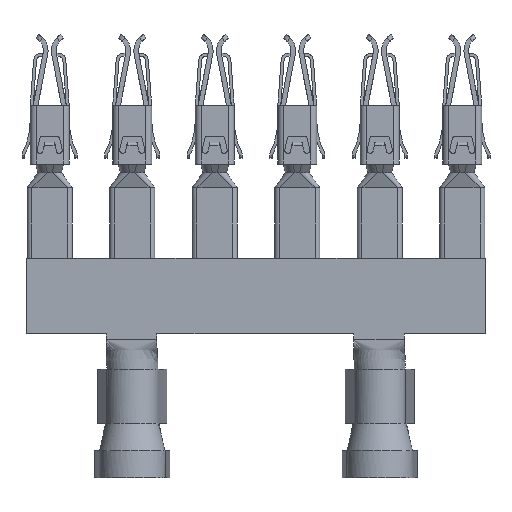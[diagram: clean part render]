
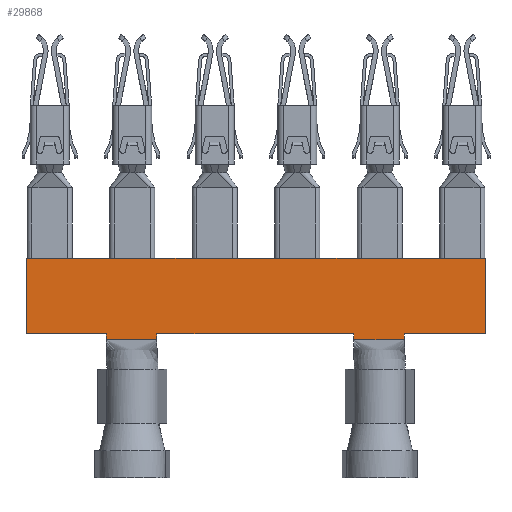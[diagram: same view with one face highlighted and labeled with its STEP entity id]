
A CAD part, front view. The second image highlights one B-rep face of the part: STEP entity #29868.
In plain terms, the highlighted planar face has unit normal (0, -1, 0).
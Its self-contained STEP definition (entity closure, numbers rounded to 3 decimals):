
#59=DIRECTION('',(1.,0.,0.));
#60=VECTOR('',#59,6.789);
#61=CARTESIAN_POINT('',(-37.001,-0.81,-25.4));
#62=LINE('',#61,#60);
#63=DIRECTION('',(1.,0.,0.));
#64=VECTOR('',#63,16.7);
#65=CARTESIAN_POINT('',(-25.912,-0.81,-25.4));
#66=LINE('',#65,#64);
#75=DIRECTION('',(1.,0.,0.));
#76=VECTOR('',#75,6.912);
#77=CARTESIAN_POINT('',(-4.912,-0.81,-25.4));
#78=LINE('',#77,#76);
#171=DIRECTION('',(1.,0.,0.));
#172=VECTOR('',#171,0.088);
#173=CARTESIAN_POINT('',(-37.001,-0.81,-19.));
#174=LINE('',#173,#172);
#183=DIRECTION('',(-1.,0.,0.));
#184=VECTOR('',#183,3.175);
#185=CARTESIAN_POINT('',(-15.913,-0.81,-19.));
#186=LINE('',#185,#184);
#191=DIRECTION('',(-1.,0.,0.));
#192=VECTOR('',#191,3.175);
#193=CARTESIAN_POINT('',(-22.913,-0.81,-19.));
#194=LINE('',#193,#192);
#199=DIRECTION('',(-1.,0.,0.));
#200=VECTOR('',#199,3.175);
#201=CARTESIAN_POINT('',(-29.913,-0.81,-19.));
#202=LINE('',#201,#200);
#207=DIRECTION('',(-1.,0.,0.));
#208=VECTOR('',#207,3.175);
#209=CARTESIAN_POINT('',(-8.913,-0.81,-19.));
#210=LINE('',#209,#208);
#211=DIRECTION('',(-1.,0.,0.));
#212=VECTOR('',#211,0.087);
#213=CARTESIAN_POINT('',(2.,-0.81,-19.));
#214=LINE('',#213,#212);
#223=DIRECTION('',(-1.,0.,0.));
#224=VECTOR('',#223,3.175);
#225=CARTESIAN_POINT('',(-1.913,-0.81,-19.));
#226=LINE('',#225,#224);
#279=DIRECTION('',(1.,0.,0.));
#280=VECTOR('',#279,3.825);
#281=CARTESIAN_POINT('',(-36.913,-0.81,-19.));
#282=LINE('',#281,#280);
#3557=DIRECTION('',(0.,0.,1.));
#3558=VECTOR('',#3557,0.5);
#3559=CARTESIAN_POINT('',(-9.212,-0.81,-25.9));
#3560=LINE('',#3559,#3558);
#3561=DIRECTION('',(0.,0.,1.));
#3562=VECTOR('',#3561,0.5);
#3563=CARTESIAN_POINT('',(-30.212,-0.81,-25.9));
#3564=LINE('',#3563,#3562);
#3565=DIRECTION('',(0.,0.,-1.));
#3566=VECTOR('',#3565,6.4);
#3567=CARTESIAN_POINT('',(-37.001,-0.81,-19.));
#3568=LINE('',#3567,#3566);
#3601=DIRECTION('',(1.,0.,0.));
#3602=VECTOR('',#3601,3.825);
#3603=CARTESIAN_POINT('',(-8.913,-0.81,-19.));
#3604=LINE('',#3603,#3602);
#7061=DIRECTION('',(1.,0.,0.));
#7062=VECTOR('',#7061,3.825);
#7063=CARTESIAN_POINT('',(-1.913,-0.81,-19.));
#7064=LINE('',#7063,#7062);
#10517=DIRECTION('',(0.,0.,1.));
#10518=VECTOR('',#10517,6.4);
#10519=CARTESIAN_POINT('',(2.,-0.81,-25.4));
#10520=LINE('',#10519,#10518);
#10521=DIRECTION('',(0.,0.,1.));
#10522=VECTOR('',#10521,0.5);
#10523=CARTESIAN_POINT('',(-4.912,-0.81,-25.9));
#10524=LINE('',#10523,#10522);
#10564=DIRECTION('',(1.,0.,0.));
#10565=VECTOR('',#10564,4.3);
#10566=CARTESIAN_POINT('',(-9.212,-0.81,-25.9));
#10567=LINE('',#10566,#10565);
#11189=DIRECTION('',(0.,0.,1.));
#11190=VECTOR('',#11189,0.5);
#11191=CARTESIAN_POINT('',(-25.912,-0.81,-25.9));
#11192=LINE('',#11191,#11190);
#11791=DIRECTION('',(1.,0.,0.));
#11792=VECTOR('',#11791,4.3);
#11793=CARTESIAN_POINT('',(-30.212,-0.81,-25.9));
#11794=LINE('',#11793,#11792);
#11836=DIRECTION('',(1.,0.,0.));
#11837=VECTOR('',#11836,3.825);
#11838=CARTESIAN_POINT('',(-29.913,-0.81,-19.));
#11839=LINE('',#11838,#11837);
#15194=DIRECTION('',(1.,0.,0.));
#15195=VECTOR('',#15194,3.825);
#15196=CARTESIAN_POINT('',(-22.913,-0.81,-19.));
#15197=LINE('',#15196,#15195);
#18586=DIRECTION('',(1.,0.,0.));
#18587=VECTOR('',#18586,3.825);
#18588=CARTESIAN_POINT('',(-15.913,-0.81,-19.));
#18589=LINE('',#18588,#18587);
#22449=CARTESIAN_POINT('',(2.,-0.81,-19.));
#22451=VERTEX_POINT('',#22449);
#22453=CARTESIAN_POINT('',(2.,-0.81,-25.4));
#22455=VERTEX_POINT('',#22453);
#22456=CARTESIAN_POINT('',(1.913,-0.81,-19.));
#22457=VERTEX_POINT('',#22456);
#22678=CARTESIAN_POINT('',(-4.912,-0.81,-25.9));
#22680=VERTEX_POINT('',#22678);
#22684=CARTESIAN_POINT('',(-9.212,-0.81,-25.9));
#22685=VERTEX_POINT('',#22684);
#22692=CARTESIAN_POINT('',(-1.913,-0.81,-19.));
#22693=VERTEX_POINT('',#22692);
#22696=CARTESIAN_POINT('',(-9.212,-0.81,-25.4));
#22697=VERTEX_POINT('',#22696);
#23324=CARTESIAN_POINT('',(-8.913,-0.81,-19.));
#23325=CARTESIAN_POINT('',(-5.088,-0.81,-19.));
#23326=VERTEX_POINT('',#23324);
#23327=VERTEX_POINT('',#23325);
#23328=CARTESIAN_POINT('',(-4.912,-0.81,-25.4));
#23329=VERTEX_POINT('',#23328);
#23412=CARTESIAN_POINT('',(-25.912,-0.81,-25.9));
#23414=VERTEX_POINT('',#23412);
#23418=CARTESIAN_POINT('',(-30.212,-0.81,-25.9));
#23419=VERTEX_POINT('',#23418);
#23420=CARTESIAN_POINT('',(-25.912,-0.81,-25.4));
#23422=VERTEX_POINT('',#23420);
#23425=CARTESIAN_POINT('',(-30.212,-0.81,-25.4));
#23427=VERTEX_POINT('',#23425);
#24054=CARTESIAN_POINT('',(-15.913,-0.81,-19.));
#24055=CARTESIAN_POINT('',(-12.088,-0.81,-19.));
#24056=VERTEX_POINT('',#24054);
#24057=VERTEX_POINT('',#24055);
#24688=CARTESIAN_POINT('',(-22.913,-0.81,-19.));
#24689=CARTESIAN_POINT('',(-19.088,-0.81,-19.));
#24690=VERTEX_POINT('',#24688);
#24691=VERTEX_POINT('',#24689);
#25318=CARTESIAN_POINT('',(-29.913,-0.81,-19.));
#25319=CARTESIAN_POINT('',(-26.088,-0.81,-19.));
#25320=VERTEX_POINT('',#25318);
#25321=VERTEX_POINT('',#25319);
#25578=CARTESIAN_POINT('',(-37.001,-0.81,-19.));
#25580=VERTEX_POINT('',#25578);
#25582=CARTESIAN_POINT('',(-37.001,-0.81,-25.4));
#25584=VERTEX_POINT('',#25582);
#25588=CARTESIAN_POINT('',(-36.913,-0.81,-19.));
#25589=VERTEX_POINT('',#25588);
#25958=CARTESIAN_POINT('',(-33.088,-0.81,-19.));
#25959=VERTEX_POINT('',#25958);
#29825=CARTESIAN_POINT('',(1.913,-0.81,-19.));
#29826=DIRECTION('',(0.,-1.,0.));
#29827=DIRECTION('',(1.,0.,0.));
#29828=AXIS2_PLACEMENT_3D('',#29825,#29826,#29827);
#29829=PLANE('',#29828);
#29830=ORIENTED_EDGE('',*,*,#26285,.F.);
#29832=ORIENTED_EDGE('',*,*,#29831,.T.);
#29833=ORIENTED_EDGE('',*,*,#26312,.F.);
#29835=ORIENTED_EDGE('',*,*,#29834,.T.);
#29836=ORIENTED_EDGE('',*,*,#26297,.F.);
#29838=ORIENTED_EDGE('',*,*,#29837,.F.);
#29839=ORIENTED_EDGE('',*,*,#26086,.F.);
#29841=ORIENTED_EDGE('',*,*,#29840,.F.);
#29843=ORIENTED_EDGE('',*,*,#29842,.F.);
#29845=ORIENTED_EDGE('',*,*,#29844,.T.);
#29846=ORIENTED_EDGE('',*,*,#26066,.F.);
#29848=ORIENTED_EDGE('',*,*,#29847,.F.);
#29850=ORIENTED_EDGE('',*,*,#29849,.F.);
#29851=ORIENTED_EDGE('',*,*,#26038,.T.);
#29852=ORIENTED_EDGE('',*,*,#26055,.F.);
#29854=ORIENTED_EDGE('',*,*,#29853,.F.);
#29855=ORIENTED_EDGE('',*,*,#26225,.T.);
#29856=ORIENTED_EDGE('',*,*,#26375,.T.);
#29857=ORIENTED_EDGE('',*,*,#26270,.F.);
#29859=ORIENTED_EDGE('',*,*,#29858,.T.);
#29860=ORIENTED_EDGE('',*,*,#26255,.F.);
#29862=ORIENTED_EDGE('',*,*,#29861,.T.);
#29863=ORIENTED_EDGE('',*,*,#26240,.F.);
#29865=ORIENTED_EDGE('',*,*,#29864,.T.);
#29866=EDGE_LOOP('',(#29830,#29832,#29833,#29835,#29836,#29838,#29839,#29841,
#29843,#29845,#29846,#29848,#29850,#29851,#29852,#29854,#29855,#29856,#29857,
#29859,#29860,#29862,#29863,#29865));
#29867=FACE_OUTER_BOUND('',#29866,.F.);
#26038=EDGE_CURVE('',#23419,#23427,#3564,.T.);
#26055=EDGE_CURVE('',#25584,#23427,#62,.T.);
#26066=EDGE_CURVE('',#23422,#22697,#66,.T.);
#26086=EDGE_CURVE('',#23329,#22455,#78,.T.);
#26225=EDGE_CURVE('',#25580,#25589,#174,.T.);
#26240=EDGE_CURVE('',#24056,#24691,#186,.T.);
#26255=EDGE_CURVE('',#24690,#25321,#194,.T.);
#26270=EDGE_CURVE('',#25320,#25959,#202,.T.);
#26285=EDGE_CURVE('',#23326,#24057,#210,.T.);
#26297=EDGE_CURVE('',#22451,#22457,#214,.T.);
#26312=EDGE_CURVE('',#22693,#23327,#226,.T.);
#26375=EDGE_CURVE('',#25589,#25959,#282,.T.);
#29831=EDGE_CURVE('',#23326,#23327,#3604,.T.);
#29834=EDGE_CURVE('',#22693,#22457,#7064,.T.);
#29837=EDGE_CURVE('',#22455,#22451,#10520,.T.);
#29840=EDGE_CURVE('',#22680,#23329,#10524,.T.);
#29842=EDGE_CURVE('',#22685,#22680,#10567,.T.);
#29844=EDGE_CURVE('',#22685,#22697,#3560,.T.);
#29847=EDGE_CURVE('',#23414,#23422,#11192,.T.);
#29849=EDGE_CURVE('',#23419,#23414,#11794,.T.);
#29853=EDGE_CURVE('',#25580,#25584,#3568,.T.);
#29858=EDGE_CURVE('',#25320,#25321,#11839,.T.);
#29861=EDGE_CURVE('',#24690,#24691,#15197,.T.);
#29864=EDGE_CURVE('',#24056,#24057,#18589,.T.);
#29868=ADVANCED_FACE('',(#29867),#29829,.T.);
